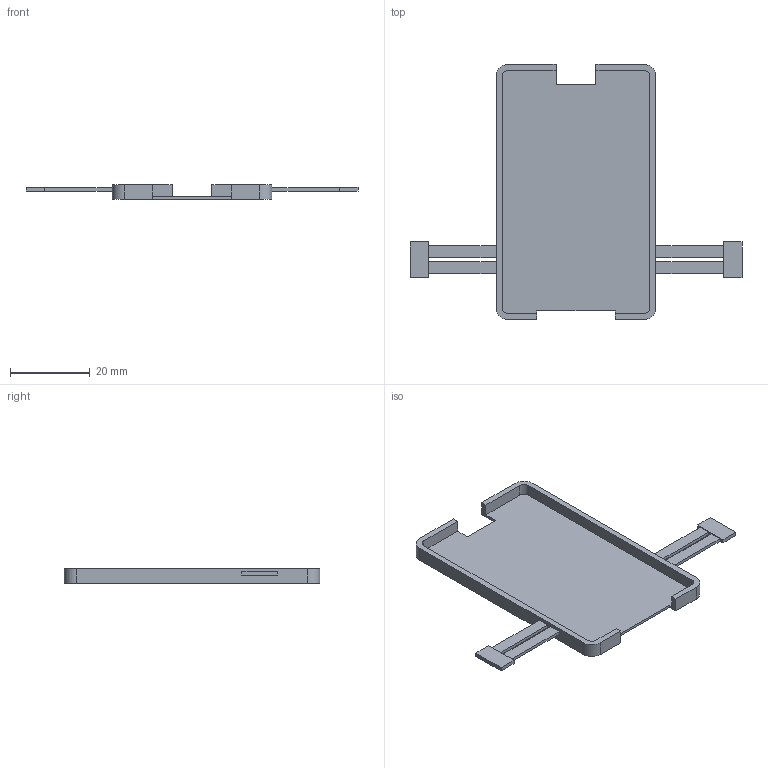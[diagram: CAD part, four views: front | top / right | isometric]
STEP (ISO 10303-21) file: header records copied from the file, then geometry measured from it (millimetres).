
FILE_DESCRIPTION(('Open CASCADE Model'),'2;1');
FILE_NAME('Open CASCADE Shape Model','2026-09-04T20:58:22',('Author'),( 'Open CASCADE'),'Open CASCADE STEP processor 7.7','Open CASCADE 7.7' ,'Unknown');
FILE_SCHEMA(('AUTOMOTIVE_DESIGN { 1 0 10303 214 1 1 1 1 }'));
Length unit declared in the file: millimetre
Products named in the file (1): Open CASCADE STEP translator 7.7 11
Bounding box: 83.2 x 64 x 3.65 mm (x, y, z)
Volume: 2602.9 mm3; surface area: 6806.3 mm2
Topology: 1 solids, 1 shells, 54 faces, 156 edges, 104 vertices
Faces by surface type: plane 46, cylinder 8
Entity records: 3770 total; most frequent: CARTESIAN_POINT 695, DIRECTION 546, LINE 392, VECTOR 392, ORIENTED_EDGE 312, PCURVE 312, DEFINITIONAL_REPRESENTATION 312, EDGE_CURVE 156
